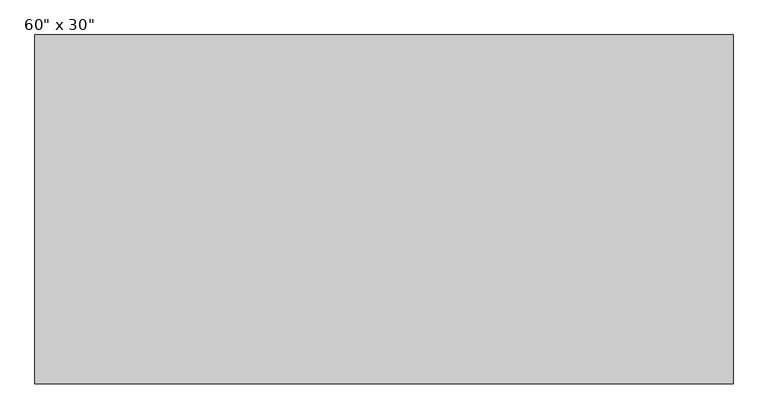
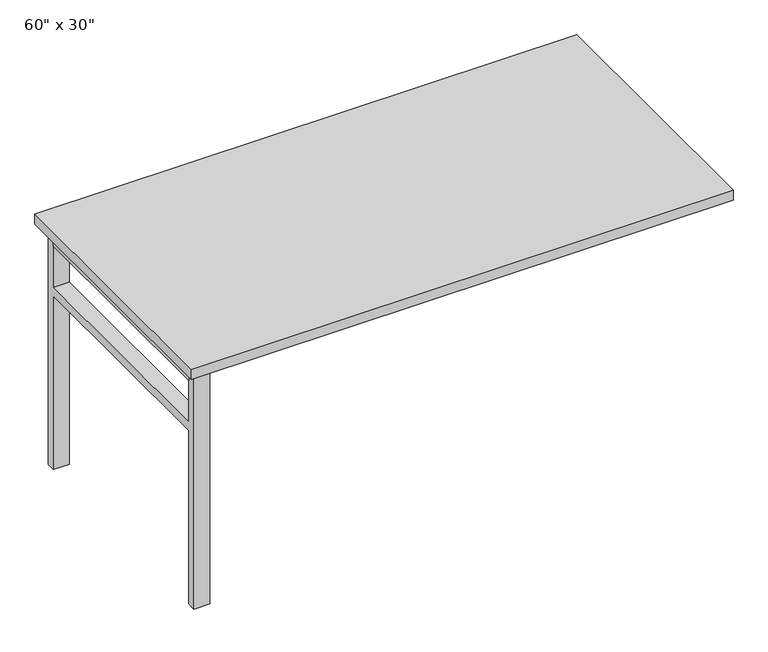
"""IFC4 building model written with IfcOpenShell, lengths in millimetres: furniture geometry."""

from ifc_helpers import new_model, si_unit, frame, origin, place, context, project, spatial, polyline, outline, extrude, source, transform, mapped, element, save


def furniture_0efe32c8(model_context):
    return source(origin(), model_context, "Body", "SweptSolid", [
        extrude(outline(polyline([(762.0, -381.0), (-762.0, -381.0), (-762.0, 381.0), (762.0, 381.0), (762.0, -381.0)])), frame((0.0, 0.0, 706.4375), z_axis=(0.0, 0.0, 1.0), x_axis=(1.0, 0.0, 0.0)), (0.0, 0.0, 1.0), 30.1625),
        extrude(outline(polyline([(-695.325, -330.2), (-739.775, -330.2), (-739.775, 330.2), (-695.325, 330.2), (-695.325, -330.2)])), frame((0.0, 0.0, 665.1625), z_axis=(0.0, 0.0, 1.0), x_axis=(1.0, 0.0, 0.0)), (0.0, 0.0, 1.0), 41.275),
        extrude(outline(polyline([(330.2, 515.9375), (-330.2, 515.9375), (-330.2, 0.0), (-355.6, 0.0), (-355.6, 706.4375), (-330.2, 706.4375), (-330.2, 541.3375), (330.2, 541.3375), (330.2, 706.4375), (355.6, 706.4375), (355.6, 0.0), (330.2, 0.0), (330.2, 515.9375)])), frame((-739.775, 0.0, 0.0), z_axis=(1.0, 0.0, 0.0), x_axis=(0.0, 1.0, 0.0)), (0.0, 0.0, 1.0), 44.45),
    ])


if __name__ == "__main__":
    model = new_model("IFC4")
    model_context = context("Model", 3, world=origin())
    ifc_project = project(units=[si_unit("LENGTHUNIT", "METRE", prefix="MILLI")], contexts=[model_context])
    site = spatial("IfcSite", under=ifc_project)
    building = spatial("IfcBuilding", under=site)
    placement = place(None, origin())
    furniture_shape = furniture_0efe32c8(model_context)
    element("IfcFurniture", 1, ObjectType="Haworth_Convergent-Rectangular : 60\" x 30\"", at=placement, inside=building, context=model_context, shape_type="MappedRepresentation", body=[
        mapped(furniture_shape, transform((0.0, 0.0, 0.0), x_axis=(1.0, 0.0, 0.0), y_axis=(0.0, 1.0, 0.0), z_axis=(0.0, 0.0, 1.0))),
    ])
    save(model, "model.ifc")
